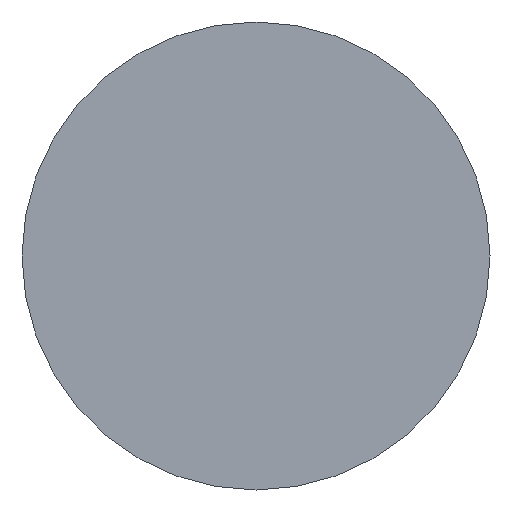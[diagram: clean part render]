
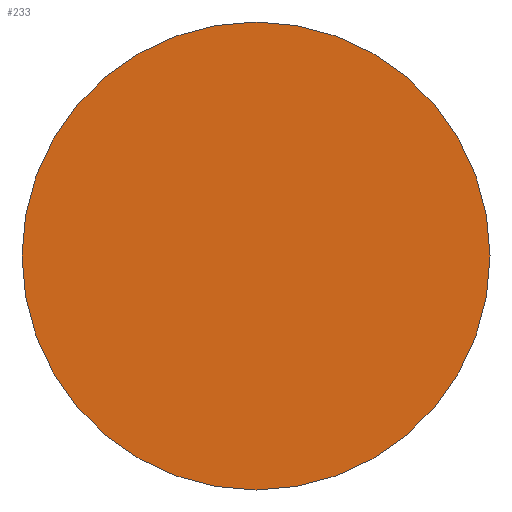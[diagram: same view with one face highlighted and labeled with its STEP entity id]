
A CAD part, left-side view. The second image highlights one B-rep face of the part: STEP entity #233.
In plain terms, the highlighted planar face has unit normal (-1, 0, 0).
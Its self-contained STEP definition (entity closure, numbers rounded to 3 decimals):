
#11 = VERTEX_POINT ( 'NONE', #195 ) ;
#25 = EDGE_CURVE ( 'NONE', #178, #11, #134, .T. ) ;
#30 = EDGE_LOOP ( 'NONE', ( #196, #110 ) ) ;
#35 = DIRECTION ( 'NONE',  ( 1., 0., 0. ) ) ;
#40 = PLANE ( 'NONE',  #193 ) ;
#57 = EDGE_CURVE ( 'NONE', #11, #178, #257, .T. ) ;
#59 = DIRECTION ( 'NONE',  ( 0., 1., 0. ) ) ;
#63 = CARTESIAN_POINT ( 'NONE',  ( 0., 0., 0. ) ) ;
#84 = AXIS2_PLACEMENT_3D ( 'NONE', #63, #35, #59 ) ;
#110 = ORIENTED_EDGE ( 'NONE', *, *, #25, .F. ) ;
#134 = CIRCLE ( 'NONE', #84, 2. ) ;
#143 = FACE_OUTER_BOUND ( 'NONE', #30, .T. ) ;
#177 = DIRECTION ( 'NONE',  ( 0., 1., 0. ) ) ;
#178 = VERTEX_POINT ( 'NONE', #208 ) ;
#188 = DIRECTION ( 'NONE',  ( 0., -1., 0. ) ) ;
#193 = AXIS2_PLACEMENT_3D ( 'NONE', #272, #265, #188 ) ;
#195 = CARTESIAN_POINT ( 'NONE',  ( 0., 2., 0. ) ) ;
#196 = ORIENTED_EDGE ( 'NONE', *, *, #57, .F. ) ;
#208 = CARTESIAN_POINT ( 'NONE',  ( 0., -2., 0. ) ) ;
#213 = AXIS2_PLACEMENT_3D ( 'NONE', #244, #215, #177 ) ;
#215 = DIRECTION ( 'NONE',  ( 1., 0., 0. ) ) ;
#233 = ADVANCED_FACE ( 'NONE', ( #143 ), #40, .T. ) ;
#244 = CARTESIAN_POINT ( 'NONE',  ( 0., 0., 0. ) ) ;
#257 = CIRCLE ( 'NONE', #213, 2. ) ;
#265 = DIRECTION ( 'NONE',  ( -1., 0., 0. ) ) ;
#272 = CARTESIAN_POINT ( 'NONE',  ( 0., 0., 0. ) ) ;
